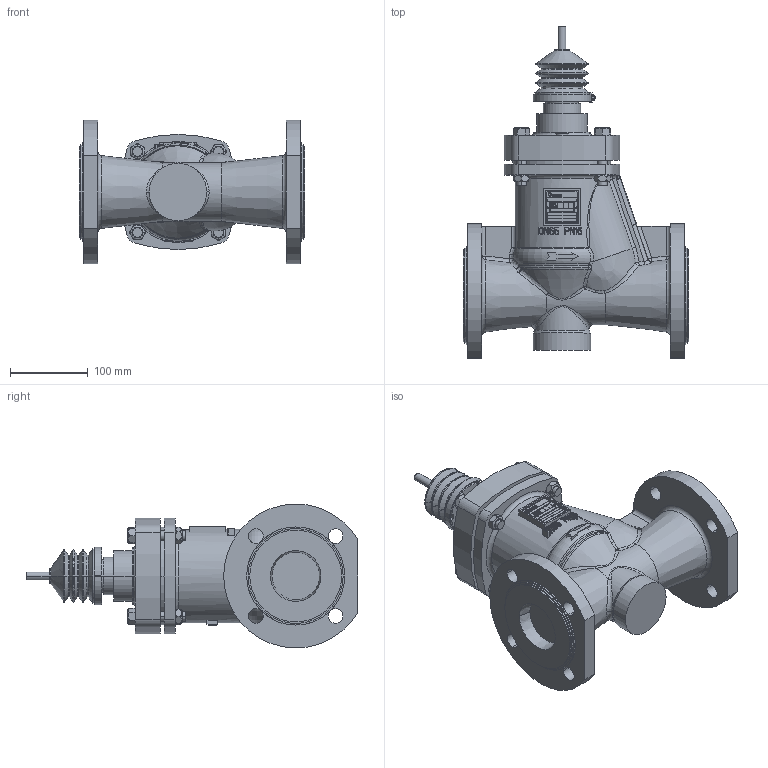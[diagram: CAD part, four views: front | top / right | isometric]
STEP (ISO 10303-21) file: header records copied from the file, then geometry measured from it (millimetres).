
FILE_DESCRIPTION((''),'2;1');
FILE_NAME('9560-00-5006_ASM','2014-04-10T',('SParmar1'),(''),'PRO/ENGINEER BY PARAMETRIC TECHNOLOGY CORPORATION, 2011040','PRO/ENGINEER BY PARAMETRIC TECHNOLOGY CORPORATION, 2011040','');
FILE_SCHEMA(('CONFIG_CONTROL_DESIGN'));
Products named in the file (6): 9567-15-2070; 9568-27-1029; 4188_11_1060; M12_X_65; M12_X_HEX_NUT; 9560-00-5006_ASM
Assembly tree (11 placements, depth 2):
  9560-00-5006_ASM
    9567-15-2070
    9568-27-1029
    4188_11_1060
    M12_X_65  x4
    M12_X_HEX_NUT  x4
Bounding box: 290 x 426.5 x 185 mm (x, y, z)
Volume: 5153514.8 mm3; surface area: 453065 mm2
Topology: 13 solids, 13 shells, 2673 faces, 7323 edges, 4800 vertices
Faces by surface type: plane 2267, cylinder 190, bspline 73, torus 61, cone 56, sphere 26
Entity records: 84839 total; most frequent: CARTESIAN_POINT 18913, ORIENTED_EDGE 14278, DIRECTION 12536, EDGE_CURVE 7139, VECTOR 6126, LINE 6126, VERTEX_POINT 4686, AXIS2_PLACEMENT_3D 3205
